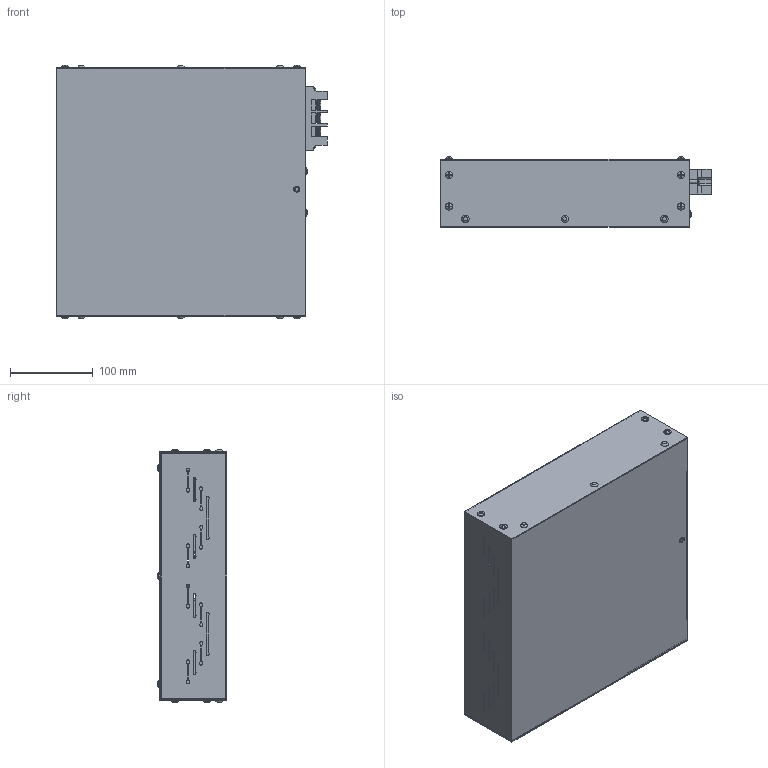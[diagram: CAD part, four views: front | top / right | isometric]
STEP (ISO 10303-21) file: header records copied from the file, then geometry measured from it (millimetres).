
FILE_DESCRIPTION(/* description */ (''),/* implementation_level */ '2;1');
FILE_NAME(/* name */ 'H:\04_배터리_전기종\고부하용 배터리 케이스_3D\[NEW] W2L300 고객용\W2L300.stp',/* time_stamp */ '2024-06-05T16:02:07+09:00',/* author */ ('jjang'),/* organization */ (''),/* preprocessor_version */ 'ST-DEVELOPER v18.1',/* originating_system */ 'Autodesk Inventor 2021',/* authorisation */ '');
FILE_SCHEMA (('AUTOMOTIVE_DESIGN { 1 0 10303 214 3 1 1 }'));
Products named in the file (1): W2L300_Shrinkwrap_1
Bounding box: 326.8 x 84.42 x 306.24 mm (x, y, z)
Volume: 429613.5 mm3; surface area: 609784.4 mm2
Topology: 4 solids, 4 shells, 1481 faces, 4046 edges, 2673 vertices
Faces by surface type: plane 710, cylinder 433, bspline 246, torus 79, sphere 7, cone 6
Full cylindrical faces by diameter (mm): 0.9 x2, 3.6 x1, 3.8 x28, 4.3 x4, 5 x7, 5.2 x14, 5.3 x18, 5.5 x3, 5.636 x6, 6 x3, 8.8 x18, 10 x1, 10.286 x3, 10.5 x3, 25.4 x1, 55.4 x1
Entity records: 57620 total; most frequent: CARTESIAN_POINT 19852, ORIENTED_EDGE 8082, DIRECTION 6987, EDGE_CURVE 4041, VERTEX_POINT 2673, AXIS2_PLACEMENT_3D 2506, LINE 1975, VECTOR 1975
